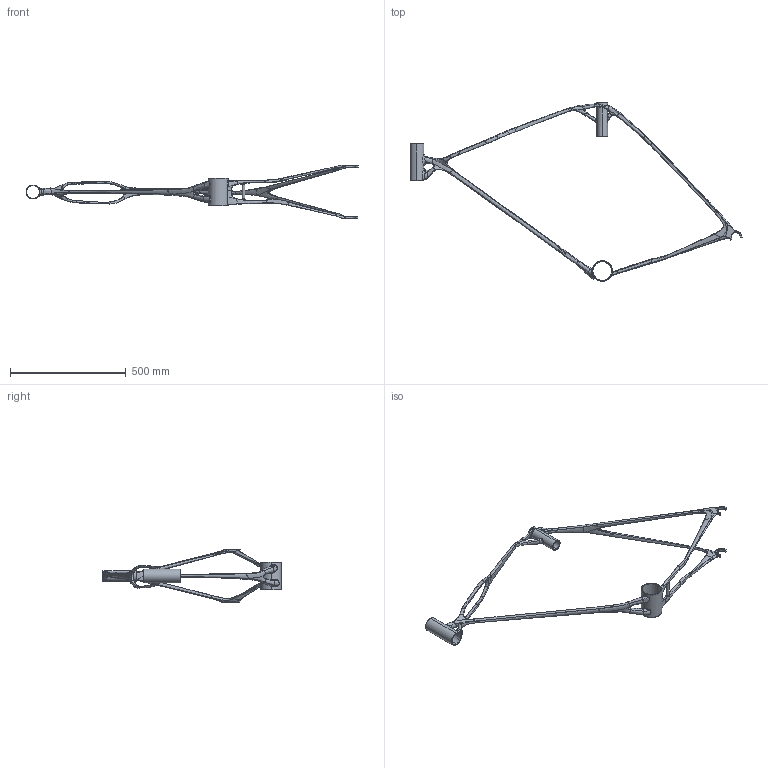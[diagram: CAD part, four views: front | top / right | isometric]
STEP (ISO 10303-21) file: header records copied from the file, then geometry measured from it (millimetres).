
FILE_DESCRIPTION (( 'STEP AP214' ), '1' );
FILE_NAME ('4_2_Cadre_optimise.STEP', '2018-02-20T12:01:25', ( '' ), ( '' ), 'SwSTEP 2.0', 'SolidWorks 2017', '' );
FILE_SCHEMA (( 'AUTOMOTIVE_DESIGN' ));
Length unit declared in the file: millimetre
Products named in the file (1): 4_2_Cadre_optimise
Bounding box: 1433.63 x 771.27 x 232 mm (x, y, z)
Volume: 1506838.4 mm3; surface area: 434637.6 mm2
Topology: 1 solids, 1 shells, 475 faces, 1075 edges, 578 vertices
Faces by surface type: bspline 393, cylinder 58, plane 24
Entity records: 183606 total; most frequent: CARTESIAN_POINT 176069, ORIENTED_EDGE 2126, EDGE_CURVE 1063, B_SPLINE_CURVE_WITH_KNOTS 790, DIRECTION 584, VERTEX_POINT 578, EDGE_LOOP 485, FACE_OUTER_BOUND 475
